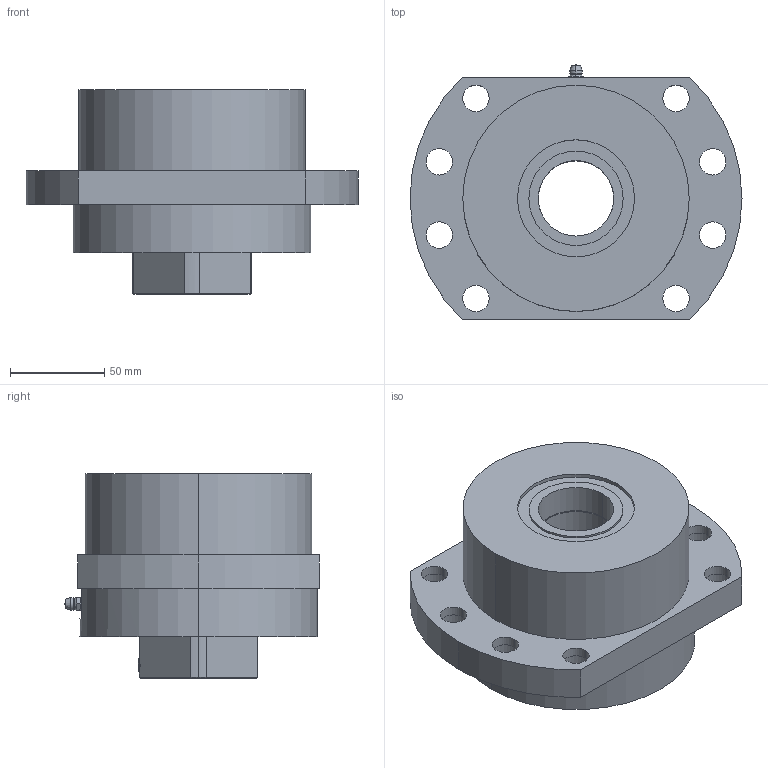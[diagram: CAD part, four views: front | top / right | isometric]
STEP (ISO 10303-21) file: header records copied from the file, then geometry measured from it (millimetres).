
FILE_DESCRIPTION (( 'STEP AP203' ), '1' );
FILE_NAME ('FK40G.STEP', '2018-09-15T04:08:15', ( '' ), ( '' ), 'SwSTEP 2.0', 'SolidWorks 2015', '' );
FILE_SCHEMA (( 'CONFIG_CONTROL_DESIGN' ));
Length unit declared in the file: millimetre
Products named in the file (1): FK40G
Bounding box: 176 x 134.9 x 108.5 mm (x, y, z)
Volume: 982876 mm3; surface area: 153387.8 mm2
Topology: 1 solids, 19 shells, 502 faces, 1125 edges, 673 vertices
Faces by surface type: cylinder 181, plane 173, cone 79, torus 60, bspline 9
Entity records: 14434 total; most frequent: CARTESIAN_POINT 2995, DIRECTION 2589, ORIENTED_EDGE 2194, EDGE_CURVE 1097, AXIS2_PLACEMENT_3D 1068, VERTEX_POINT 673, EDGE_LOOP 584, CIRCLE 574
